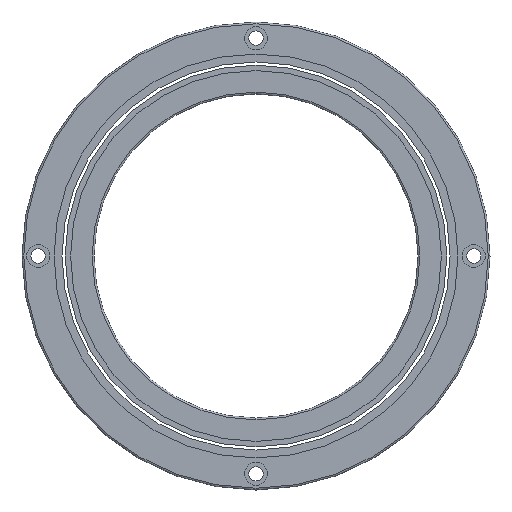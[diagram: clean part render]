
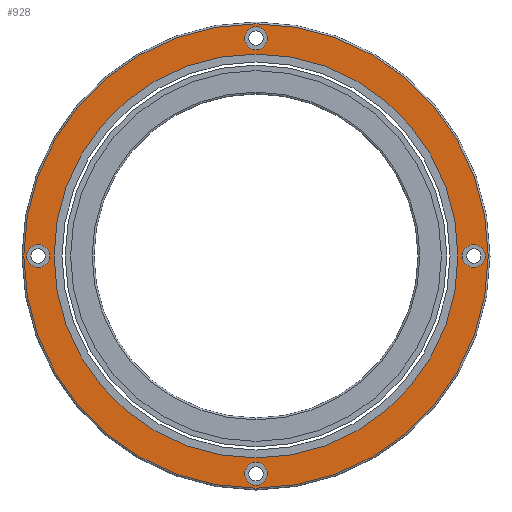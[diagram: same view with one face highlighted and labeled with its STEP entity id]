
A CAD part, front view. The second image highlights one B-rep face of the part: STEP entity #928.
In plain terms, the highlighted planar face has unit normal (0, -1, 0).
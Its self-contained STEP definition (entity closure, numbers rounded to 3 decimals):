
#43=CARTESIAN_POINT('',(0.,0.,0.));
#44=DIRECTION('',(0.,-1.,0.));
#45=DIRECTION('',(-1.,0.,0.));
#46=AXIS2_PLACEMENT_3D('',#43,#44,#45);
#48=CARTESIAN_POINT('',(0.,0.,0.));
#49=DIRECTION('',(0.,1.,0.));
#50=DIRECTION('',(-1.,0.,0.));
#51=AXIS2_PLACEMENT_3D('',#48,#49,#50);
#53=CARTESIAN_POINT('',(-60.5,0.,0.));
#54=DIRECTION('',(0.,1.,0.));
#55=DIRECTION('',(1.,0.,0.));
#56=AXIS2_PLACEMENT_3D('',#53,#54,#55);
#58=CARTESIAN_POINT('',(-60.5,0.,0.));
#59=DIRECTION('',(0.,1.,0.));
#60=DIRECTION('',(-1.,0.,0.));
#61=AXIS2_PLACEMENT_3D('',#58,#59,#60);
#63=CARTESIAN_POINT('',(0.,0.,60.5));
#64=DIRECTION('',(0.,1.,0.));
#65=DIRECTION('',(0.,0.,-1.));
#66=AXIS2_PLACEMENT_3D('',#63,#64,#65);
#68=CARTESIAN_POINT('',(0.,0.,60.5));
#69=DIRECTION('',(0.,1.,0.));
#70=DIRECTION('',(0.,0.,1.));
#71=AXIS2_PLACEMENT_3D('',#68,#69,#70);
#73=CARTESIAN_POINT('',(60.5,0.,0.));
#74=DIRECTION('',(0.,1.,0.));
#75=DIRECTION('',(-1.,0.,0.));
#76=AXIS2_PLACEMENT_3D('',#73,#74,#75);
#78=CARTESIAN_POINT('',(60.5,0.,0.));
#79=DIRECTION('',(0.,1.,0.));
#80=DIRECTION('',(1.,0.,0.));
#81=AXIS2_PLACEMENT_3D('',#78,#79,#80);
#83=CARTESIAN_POINT('',(0.,0.,-60.5));
#84=DIRECTION('',(0.,1.,0.));
#85=DIRECTION('',(0.,0.,1.));
#86=AXIS2_PLACEMENT_3D('',#83,#84,#85);
#88=CARTESIAN_POINT('',(0.,0.,-60.5));
#89=DIRECTION('',(0.,1.,0.));
#90=DIRECTION('',(0.,0.,-1.));
#91=AXIS2_PLACEMENT_3D('',#88,#89,#90);
#93=CARTESIAN_POINT('',(0.,0.,0.));
#94=DIRECTION('',(0.,1.,0.));
#95=DIRECTION('',(-1.,0.,0.));
#96=AXIS2_PLACEMENT_3D('',#93,#94,#95);
#98=CARTESIAN_POINT('',(0.,0.,0.));
#99=DIRECTION('',(0.,1.,0.));
#100=DIRECTION('',(1.,0.,0.));
#101=AXIS2_PLACEMENT_3D('',#98,#99,#100);
#751=CARTESIAN_POINT('',(-57.3,0.,0.));
#752=VERTEX_POINT('',#751);
#753=CARTESIAN_POINT('',(-63.7,0.,0.));
#754=VERTEX_POINT('',#753);
#763=CARTESIAN_POINT('',(0.,0.,57.3));
#764=VERTEX_POINT('',#763);
#765=CARTESIAN_POINT('',(0.,0.,63.7));
#766=VERTEX_POINT('',#765);
#775=CARTESIAN_POINT('',(57.3,0.,0.));
#776=VERTEX_POINT('',#775);
#777=CARTESIAN_POINT('',(63.7,0.,0.));
#778=VERTEX_POINT('',#777);
#787=CARTESIAN_POINT('',(0.,0.,-57.3));
#788=VERTEX_POINT('',#787);
#789=CARTESIAN_POINT('',(0.,0.,-63.7));
#790=VERTEX_POINT('',#789);
#808=CARTESIAN_POINT('',(-56.1,0.,0.));
#810=VERTEX_POINT('',#808);
#812=CARTESIAN_POINT('',(56.1,0.,0.));
#814=VERTEX_POINT('',#812);
#827=CARTESIAN_POINT('',(-64.5,0.,0.));
#828=CARTESIAN_POINT('',(64.5,0.,0.));
#829=VERTEX_POINT('',#827);
#830=VERTEX_POINT('',#828);
#889=CARTESIAN_POINT('',(0.,0.,0.));
#890=DIRECTION('',(0.,1.,0.));
#891=DIRECTION('',(1.,0.,0.));
#892=AXIS2_PLACEMENT_3D('',#889,#890,#891);
#893=PLANE('',#892);
#895=ORIENTED_EDGE('',*,*,#894,.T.);
#897=ORIENTED_EDGE('',*,*,#896,.T.);
#898=EDGE_LOOP('',(#895,#897));
#899=FACE_OUTER_BOUND('',#898,.F.);
#900=ORIENTED_EDGE('',*,*,#868,.F.);
#901=ORIENTED_EDGE('',*,*,#884,.F.);
#902=EDGE_LOOP('',(#900,#901));
#903=FACE_BOUND('',#902,.F.);
#905=ORIENTED_EDGE('',*,*,#904,.F.);
#907=ORIENTED_EDGE('',*,*,#906,.F.);
#908=EDGE_LOOP('',(#905,#907));
#909=FACE_BOUND('',#908,.F.);
#911=ORIENTED_EDGE('',*,*,#910,.F.);
#913=ORIENTED_EDGE('',*,*,#912,.F.);
#914=EDGE_LOOP('',(#911,#913));
#915=FACE_BOUND('',#914,.F.);
#917=ORIENTED_EDGE('',*,*,#916,.F.);
#919=ORIENTED_EDGE('',*,*,#918,.F.);
#920=EDGE_LOOP('',(#917,#919));
#921=FACE_BOUND('',#920,.F.);
#923=ORIENTED_EDGE('',*,*,#922,.T.);
#925=ORIENTED_EDGE('',*,*,#924,.F.);
#926=EDGE_LOOP('',(#923,#925));
#927=FACE_BOUND('',#926,.F.);
#47=CIRCLE('',#46,56.1);
#52=CIRCLE('',#51,56.1);
#57=CIRCLE('',#56,3.2);
#62=CIRCLE('',#61,3.2);
#67=CIRCLE('',#66,3.2);
#72=CIRCLE('',#71,3.2);
#77=CIRCLE('',#76,3.2);
#82=CIRCLE('',#81,3.2);
#87=CIRCLE('',#86,3.2);
#92=CIRCLE('',#91,3.2);
#97=CIRCLE('',#96,64.5);
#102=CIRCLE('',#101,64.5);
#868=EDGE_CURVE('',#752,#754,#57,.T.);
#884=EDGE_CURVE('',#754,#752,#62,.T.);
#894=EDGE_CURVE('',#829,#830,#97,.T.);
#896=EDGE_CURVE('',#830,#829,#102,.T.);
#904=EDGE_CURVE('',#764,#766,#67,.T.);
#906=EDGE_CURVE('',#766,#764,#72,.T.);
#910=EDGE_CURVE('',#776,#778,#77,.T.);
#912=EDGE_CURVE('',#778,#776,#82,.T.);
#916=EDGE_CURVE('',#788,#790,#87,.T.);
#918=EDGE_CURVE('',#790,#788,#92,.T.);
#922=EDGE_CURVE('',#810,#814,#47,.T.);
#924=EDGE_CURVE('',#810,#814,#52,.T.);
#928=ADVANCED_FACE('',(#899,#903,#909,#915,#921,#927),#893,.F.);
